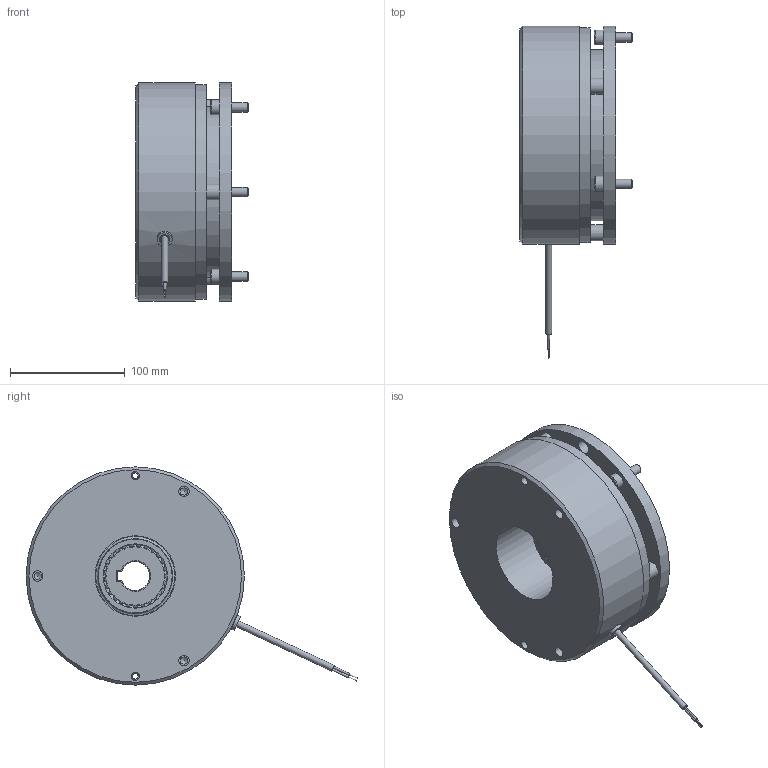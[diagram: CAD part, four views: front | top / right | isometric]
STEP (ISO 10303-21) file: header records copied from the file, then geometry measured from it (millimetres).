
FILE_DESCRIPTION(/* description */ (''),/* implementation_level */ '2;1');
FILE_NAME(/* name */ 'C:\SapWorkDir\Inventor\IP1\ConvertTempPath\5023681_IPT_000.ipt.stp',/* time_stamp */ '2020-09-03T14:17:22+02:00',/* author */ ('STRATE'),/* organization */ (''),/* preprocessor_version */ 'ST-DEVELOPER v17',/* originating_system */ 'Autodesk Inventor 2018',/* authorisation */ '');
FILE_SCHEMA (('AUTOMOTIVE_DESIGN { 1 0 10303 214 3 1 1 }'));
Length unit declared in the file: millimetre
Products named in the file (1): 5023681
Bounding box: 97.5 x 288.81 x 190 mm (x, y, z)
Volume: 1947326.2 mm3; surface area: 244339.4 mm2
Topology: 2 solids, 2 shells, 507 faces, 1444 edges, 973 vertices
Faces by surface type: cylinder 262, plane 112, cone 109, torus 24
Full cylindrical faces by diameter (mm): 1 x2, 1.85 x2, 4.917 x2, 5 x1, 5.3 x1, 7 x1, 7.3 x2, 8 x3, 8.5 x1, 9 x6, 10 x2, 12 x2, 13 x3, 13.2 x1, 13.8 x3, 14.5 x6, 15.8 x3, 70 x3, 103.8 x2, 104.1 x2, 149 x1, 187 x1, 190 x2
Entity records: 18678 total; most frequent: CARTESIAN_POINT 4782, ORIENTED_EDGE 2880, DIRECTION 2781, EDGE_CURVE 1440, AXIS2_PLACEMENT_3D 1180, VERTEX_POINT 973, CIRCLE 648, EDGE_LOOP 591
